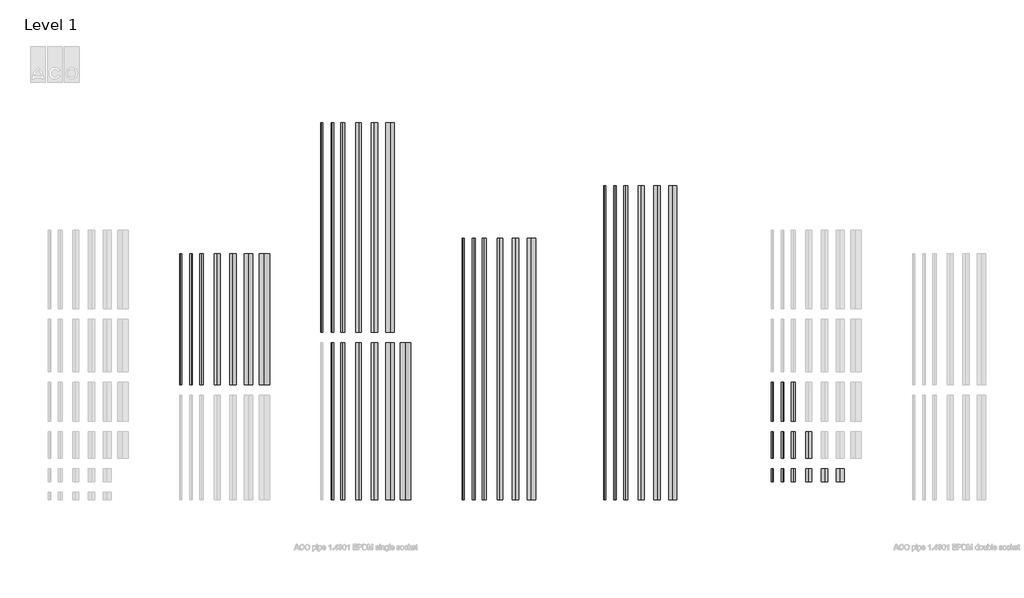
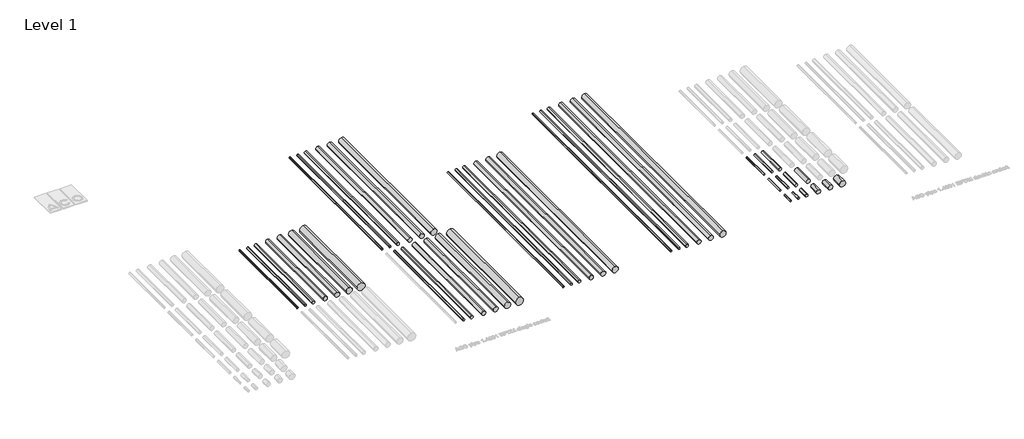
# One storey, part 7 of 13: 44 pipe segments.
"""IFC4 building model written with IfcOpenShell, lengths in millimetres."""

import ifcopenshell
import ifcopenshell.guid

model = None  # the IFC model being written
_history = None  # IfcOwnerHistory: only IFC2X3 demands one
_inside = {}  # id of a spatial element -> (the spatial element, [elements in it])
_under = {}  # id of a project, library or spatial element -> (it, [spatial elements below it])
_declared = {}  # id of a project -> (the project, [libraries it declares])
_typed = {}  # id of a type object -> (the type object, [elements of that type])
_made_of = {}  # id of a material, layer set ... -> (it, [elements and type objects made of it])


def new_model(schema):
    """Start an empty IFC model of exactly this schema.

    Asked for "IFC4X3", IfcOpenShell would pick the latest addendum, in which some entities
    have other attributes; the version numbers below select the first issue.
    IFC2X3 requires an IfcOwnerHistory on every rooted entity: one is made here for all.
    """
    global model, _history
    if schema == "IFC4X3":
        model = ifcopenshell.file(schema_version=(4, 3, 0, 0))
    else:
        model = ifcopenshell.file(schema=schema)
    _inside.clear()
    _under.clear()
    _declared.clear()
    _typed.clear()
    _made_of.clear()
    _history = None
    if model.schema == "IFC2X3":
        org = make("IfcOrganization", Name="unknown")
        user = make(
            "IfcPersonAndOrganization",
            ThePerson=make("IfcPerson", FamilyName="unknown"),
            TheOrganization=org,
        )
        app = make(
            "IfcApplication",
            ApplicationDeveloper=org,
            Version="unknown",
            ApplicationFullName="unknown",
            ApplicationIdentifier="unknown",
        )
        _history = make(
            "IfcOwnerHistory",
            OwningUser=user,
            OwningApplication=app,
            ChangeAction="ADDED",
            CreationDate=0,
        )
    return model


def make(cls, **values):
    """One entity of the class cls with the attributes given. An attribute that is None is left unset."""
    return model.create_entity(
        cls, **{name: value for name, value in values.items() if value is not None}
    )


def rooted(cls, **values):
    """An entity with a GlobalId (a new one), such as an element, a storey or a relation."""
    return make(cls, GlobalId=ifcopenshell.guid.new(), OwnerHistory=_history, **values)


def si_unit(unit_type, name, prefix=None):
    """IfcSIUnit, for example si_unit("LENGTHUNIT", "METRE", prefix="MILLI")."""
    return make("IfcSIUnit", UnitType=unit_type, Prefix=prefix, Name=name)


def assignment(units):
    """IfcUnitAssignment: the units of a project."""
    return None if units is None else make("IfcUnitAssignment", Units=units)


def point(xyz):
    """IfcCartesianPoint."""
    return None if xyz is None else make("IfcCartesianPoint", Coordinates=xyz)


def direction(xyz):
    """IfcDirection."""
    return None if xyz is None else make("IfcDirection", DirectionRatios=xyz)


def frame(location, z_axis=None, x_axis=None):
    """IfcAxis2Placement3D, a coordinate frame: its origin and axes. An axis left out is left unset."""
    return make(
        "IfcAxis2Placement3D",
        Location=point(location),
        Axis=direction(z_axis),
        RefDirection=direction(x_axis),
    )


def frame_2d(location, x_axis=None):
    """IfcAxis2Placement2D, a coordinate frame in the plane: its origin and x axis."""
    return make(
        "IfcAxis2Placement2D", Location=point(location), RefDirection=direction(x_axis)
    )


def origin():
    """The frame at (0, 0, 0) with its axes left unset."""
    return frame((0.0, 0.0, 0.0))


def place(relative_to, where):
    """IfcLocalPlacement: puts the frame where relative to a parent placement (None: the world)."""
    return make(
        "IfcLocalPlacement", PlacementRelTo=relative_to, RelativePlacement=where
    )


def context(
    kind, dimensions, precision=None, world=None, true_north=None, identifier=None
):
    """IfcGeometricRepresentationContext, for example the 3D "Model" context."""
    return make(
        "IfcGeometricRepresentationContext",
        ContextIdentifier=identifier,
        ContextType=kind,
        CoordinateSpaceDimension=dimensions,
        Precision=precision,
        WorldCoordinateSystem=world,
        TrueNorth=true_north,
    )


def project(units=None, contexts=None):
    """IfcProject with its units and contexts."""
    return rooted(
        "IfcProject",
        Name="project",
        RepresentationContexts=contexts,
        UnitsInContext=assignment(units),
    )


def spatial(cls, under=None, at=None, **own):
    """A site, building, storey or space (cls), placed at a placement, below another one or the project."""
    s = rooted(cls, ObjectPlacement=at, **own)
    if under is not None:
        _under.setdefault(under.id(), (under, []))[1].append(s)
    return s


def circle_curve(where, radius):
    """IfcCircle in the frame where."""
    return make("IfcCircle", Position=where, Radius=radius)


def trimmed(basis, trim1, trim2, sense, master):
    """IfcTrimmedCurve: the piece of a basis curve between two trims."""
    return make(
        "IfcTrimmedCurve",
        BasisCurve=basis,
        Trim1=trim1,
        Trim2=trim2,
        SenseAgreement=sense,
        MasterRepresentation=master,
    )


def segment(curve, same_sense, transition):
    """IfcCompositeCurveSegment."""
    return make(
        "IfcCompositeCurveSegment",
        Transition=transition,
        SameSense=same_sense,
        ParentCurve=curve,
    )


def composite_curve(segments, self_intersect=None):
    """IfcCompositeCurve: segments joined end to end."""
    return make("IfcCompositeCurve", Segments=segments, SelfIntersect=self_intersect)


def outline(outer, holes=None, kind="AREA"):
    """IfcArbitraryClosedProfileDef: a profile drawn as a closed curve; with holes, ...WithVoids."""
    if holes is None:
        return make("IfcArbitraryClosedProfileDef", ProfileType=kind, OuterCurve=outer)
    return make(
        "IfcArbitraryProfileDefWithVoids",
        ProfileType=kind,
        OuterCurve=outer,
        InnerCurves=holes,
    )


def extrude(swept, where, along, depth):
    """IfcExtrudedAreaSolid: the profile swept, set in the frame where, extruded along a direction by depth."""
    return make(
        "IfcExtrudedAreaSolid",
        SweptArea=swept,
        Position=where,
        ExtrudedDirection=direction(along),
        Depth=depth,
    )


def shape(context_of_items, identifier, shape_type, items):
    """IfcShapeRepresentation: the items that make up one representation, for example the "Body"."""
    return make(
        "IfcShapeRepresentation",
        ContextOfItems=context_of_items,
        RepresentationIdentifier=identifier,
        RepresentationType=shape_type,
        Items=items,
    )


def made_of(thing, what):
    """Note that an element or type object is made of a material, layer set ...; save() writes the relation."""
    if what is not None:
        _made_of.setdefault(what.id(), (what, []))[1].append(thing)
    return thing


def element(
    cls,
    number,
    at=None,
    inside=None,
    cuts=None,
    type_object=None,
    material=None,
    context=None,
    identifier="Body",
    shape_type=None,
    held_by="IfcProductDefinitionShape",
    body=None,
    shapes=None,
    **own,
):
    """One element of the class cls, such as IfcWall. Its Tag is "e" and its number.

    at: its placement. inside: the storey or other place that contains it. cuts: it is an
    opening in that element (IfcRelVoidsElement). A single representation is given by context,
    identifier, shape_type and body (its items); several are given by shapes. held_by: the class
    of the entity that holds the representations. save() writes the other relations.
    """
    e = rooted(cls, Tag="e%d" % number, ObjectPlacement=at, **own)
    if body is not None:
        shapes = [shape(context, identifier, shape_type, body)]
    if shapes is not None:
        e.Representation = make(held_by, Representations=shapes)
    if inside is not None:
        _inside.setdefault(inside.id(), (inside, []))[1].append(e)
    if cuts is not None:
        rooted(
            "IfcRelVoidsElement", RelatingBuildingElement=cuts, RelatedOpeningElement=e
        )
    if type_object is not None:
        _typed.setdefault(type_object.id(), (type_object, []))[1].append(e)
    return made_of(e, material)


def aggregate(whole, parts):
    """IfcRelAggregates: a whole, such as a stair, and the parts it consists of."""
    return rooted("IfcRelAggregates", RelatingObject=whole, RelatedObjects=parts)


def save(model, path):
    """Write the relations noted so far, then the file.

    IfcRelAggregates (storeys below a building ...), IfcRelContainedInSpatialStructure (elements
    in a storey), IfcRelDefinesByType, IfcRelAssociatesMaterial and IfcRelDeclares: one each for
    every whole, place, type object, material and project.
    """
    for whole, parts in _under.values():
        aggregate(whole, parts)
    for where, things in _inside.values():
        rooted(
            "IfcRelContainedInSpatialStructure",
            RelatedElements=things,
            RelatingStructure=where,
        )
    for kind, things in _typed.values():
        rooted("IfcRelDefinesByType", RelatedObjects=things, RelatingType=kind)
    for what, things in _made_of.values():
        rooted("IfcRelAssociatesMaterial", RelatedObjects=things, RelatingMaterial=what)
    for by, libraries in _declared.values():
        rooted("IfcRelDeclares", RelatingContext=by, RelatedDefinitions=libraries)
    model.write(path)


model = new_model("IFC4")

# Units and contexts
model_context = context("Model", 3, world=origin())
ifc_project = project(units=[si_unit("LENGTHUNIT", "METRE", prefix="MILLI")], contexts=[model_context])

# Site, building, storey
site = spatial("IfcSite", under=ifc_project)
building = spatial("IfcBuilding", under=site)
storey = spatial("IfcBuildingStorey", under=building, Name="Level 1", Elevation=0.0)

# Pipe segments
placement = place(None, origin())
element("IfcPipeSegment", 1, ObjectType="ACO pipe 1.4301 OD (complex)", at=placement, inside=storey, context=model_context, shape_type="SweptSolid", body=[
    extrude(outline(composite_curve([segment(trimmed(circle_curve(frame_2d((0.0, 1021.7461061)), 20.0), [point((0.0, 1041.7461061))], [point((20.0, 1021.7461061))], False, "CARTESIAN"), True, "CONTINUOUS"), segment(trimmed(circle_curve(frame_2d((0.0, 1021.7461061)), 20.0), [point((20.0, 1021.7461061))], [point((0.0, 1001.7461061))], False, "CARTESIAN"), True, "CONTINUOUS"), segment(trimmed(circle_curve(frame_2d((0.0, 1021.7461061)), 20.0), [point((0.0, 1001.7461061))], [point((-20.0, 1021.7461061))], False, "CARTESIAN"), True, "CONTINUOUS"), segment(trimmed(circle_curve(frame_2d((0.0, 1021.7461061)), 20.0), [point((-20.0, 1021.7461061))], [point((0.0, 1041.7461061))], False, "CARTESIAN"), True, "CONTINUOUS")], self_intersect=False)), frame((0.0, 2180.7885647, 0.0), z_axis=(0.0, 1.0, 0.0), x_axis=(0.0, 0.0, 1.0)), (0.0, 0.0, 1.0), 2500.0),
])
element("IfcPipeSegment", 2, ObjectType="ACO pipe 1.4301 OD (complex)", at=placement, inside=storey, context=model_context, shape_type="SweptSolid", body=[
    extrude(outline(composite_curve([segment(trimmed(circle_curve(frame_2d((0.0, 1221.7461061)), 25.0), [point((0.0, 1246.7461061))], [point((25.0, 1221.7461061))], False, "CARTESIAN"), True, "CONTINUOUS"), segment(trimmed(circle_curve(frame_2d((0.0, 1221.7461061)), 25.0), [point((25.0, 1221.7461061))], [point((0.0, 1196.7461061))], False, "CARTESIAN"), True, "CONTINUOUS"), segment(trimmed(circle_curve(frame_2d((0.0, 1221.7461061)), 25.0), [point((0.0, 1196.7461061))], [point((-25.0, 1221.7461061))], False, "CARTESIAN"), True, "CONTINUOUS"), segment(trimmed(circle_curve(frame_2d((0.0, 1221.7461061)), 25.0), [point((-25.0, 1221.7461061))], [point((0.0, 1246.7461061))], False, "CARTESIAN"), True, "CONTINUOUS")], self_intersect=False)), frame((0.0, 2180.7885647, 0.0), z_axis=(0.0, 1.0, 0.0), x_axis=(0.0, 0.0, 1.0)), (0.0, 0.0, 1.0), 2500.0),
])
element("IfcPipeSegment", 3, ObjectType="ACO pipe 1.4301 OD (complex)", at=placement, inside=storey, context=model_context, shape_type="SweptSolid", body=[
    extrude(outline(composite_curve([segment(trimmed(circle_curve(frame_2d((0.0, 1421.7461061)), 37.5), [point((0.0, 1459.2461061))], [point((37.5, 1421.7461061))], False, "CARTESIAN"), True, "CONTINUOUS"), segment(trimmed(circle_curve(frame_2d((0.0, 1421.7461061)), 37.5), [point((37.5, 1421.7461061))], [point((0.0, 1384.2461061))], False, "CARTESIAN"), True, "CONTINUOUS"), segment(trimmed(circle_curve(frame_2d((0.0, 1421.7461061)), 37.5), [point((0.0, 1384.2461061))], [point((-37.5, 1421.7461061))], False, "CARTESIAN"), True, "CONTINUOUS"), segment(trimmed(circle_curve(frame_2d((0.0, 1421.7461061)), 37.5), [point((-37.5, 1421.7461061))], [point((0.0, 1459.2461061))], False, "CARTESIAN"), True, "CONTINUOUS")], self_intersect=False)), frame((0.0, 2180.7885647, 0.0), z_axis=(0.0, 1.0, 0.0), x_axis=(0.0, 0.0, 1.0)), (0.0, 0.0, 1.0), 2500.0),
])
element("IfcPipeSegment", 4, ObjectType="ACO pipe 1.4301 OD (complex)", at=placement, inside=storey, context=model_context, shape_type="SweptSolid", body=[
    extrude(outline(composite_curve([segment(trimmed(circle_curve(frame_2d((0.0, 1721.7461061)), 55.0), [point((0.0, 1776.7461061))], [point((55.0, 1721.7461061))], False, "CARTESIAN"), True, "CONTINUOUS"), segment(trimmed(circle_curve(frame_2d((0.0, 1721.7461061)), 55.0), [point((55.0, 1721.7461061))], [point((0.0, 1666.7461061))], False, "CARTESIAN"), True, "CONTINUOUS"), segment(trimmed(circle_curve(frame_2d((0.0, 1721.7461061)), 55.0), [point((0.0, 1666.7461061))], [point((-55.0, 1721.7461061))], False, "CARTESIAN"), True, "CONTINUOUS"), segment(trimmed(circle_curve(frame_2d((0.0, 1721.7461061)), 55.0), [point((-55.0, 1721.7461061))], [point((0.0, 1776.7461061))], False, "CARTESIAN"), True, "CONTINUOUS")], self_intersect=False)), frame((0.0, 2180.7885647, 0.0), z_axis=(0.0, 1.0, 0.0), x_axis=(0.0, 0.0, 1.0)), (0.0, 0.0, 1.0), 2500.0),
])
element("IfcPipeSegment", 5, ObjectType="ACO pipe 1.4301 OD (complex)", at=placement, inside=storey, context=model_context, shape_type="SweptSolid", body=[
    extrude(outline(composite_curve([segment(trimmed(circle_curve(frame_2d((0.0, 2021.7461061)), 62.5), [point((0.0, 2084.2461061))], [point((62.5, 2021.7461061))], False, "CARTESIAN"), True, "CONTINUOUS"), segment(trimmed(circle_curve(frame_2d((0.0, 2021.7461061)), 62.5), [point((62.5, 2021.7461061))], [point((0.0, 1959.2461061))], False, "CARTESIAN"), True, "CONTINUOUS"), segment(trimmed(circle_curve(frame_2d((0.0, 2021.7461061)), 62.5), [point((0.0, 1959.2461061))], [point((-62.5, 2021.7461061))], False, "CARTESIAN"), True, "CONTINUOUS"), segment(trimmed(circle_curve(frame_2d((0.0, 2021.7461061)), 62.5), [point((-62.5, 2021.7461061))], [point((0.0, 2084.2461061))], False, "CARTESIAN"), True, "CONTINUOUS")], self_intersect=False)), frame((0.0, 2180.7885647, 0.0), z_axis=(0.0, 1.0, 0.0), x_axis=(0.0, 0.0, 1.0)), (0.0, 0.0, 1.0), 2500.0),
])
element("IfcPipeSegment", 6, ObjectType="ACO pipe 1.4301 OD (complex)", at=placement, inside=storey, context=model_context, shape_type="SweptSolid", body=[
    extrude(outline(composite_curve([segment(trimmed(circle_curve(frame_2d((0.0, 2321.7461061)), 80.0), [point((0.0, 2401.7461061))], [point((80.0, 2321.7461061))], False, "CARTESIAN"), True, "CONTINUOUS"), segment(trimmed(circle_curve(frame_2d((0.0, 2321.7461061)), 80.0), [point((80.0, 2321.7461061))], [point((0.0, 2241.7461061))], False, "CARTESIAN"), True, "CONTINUOUS"), segment(trimmed(circle_curve(frame_2d((0.0, 2321.7461061)), 80.0), [point((0.0, 2241.7461061))], [point((-80.0, 2321.7461061))], False, "CARTESIAN"), True, "CONTINUOUS"), segment(trimmed(circle_curve(frame_2d((0.0, 2321.7461061)), 80.0), [point((-80.0, 2321.7461061))], [point((0.0, 2401.7461061))], False, "CARTESIAN"), True, "CONTINUOUS")], self_intersect=False)), frame((0.0, 2180.7885647, 0.0), z_axis=(0.0, 1.0, 0.0), x_axis=(0.0, 0.0, 1.0)), (0.0, 0.0, 1.0), 2500.0),
])
element("IfcPipeSegment", 7, ObjectType="ACO pipe 1.4301 OD (complex)", at=placement, inside=storey, context=model_context, shape_type="SweptSolid", body=[
    extrude(outline(composite_curve([segment(trimmed(circle_curve(frame_2d((0.0, 2621.7461061)), 100.0), [point((0.0, 2721.7461061))], [point((100.0, 2621.7461061))], False, "CARTESIAN"), True, "CONTINUOUS"), segment(trimmed(circle_curve(frame_2d((0.0, 2621.7461061)), 100.0), [point((100.0, 2621.7461061))], [point((0.0, 2521.7461061))], False, "CARTESIAN"), True, "CONTINUOUS"), segment(trimmed(circle_curve(frame_2d((0.0, 2621.7461061)), 100.0), [point((0.0, 2521.7461061))], [point((-100.0, 2621.7461061))], False, "CARTESIAN"), True, "CONTINUOUS"), segment(trimmed(circle_curve(frame_2d((0.0, 2621.7461061)), 100.0), [point((-100.0, 2621.7461061))], [point((0.0, 2721.7461061))], False, "CARTESIAN"), True, "CONTINUOUS")], self_intersect=False)), frame((0.0, 2180.7885647, 0.0), z_axis=(0.0, 1.0, 0.0), x_axis=(0.0, 0.0, 1.0)), (0.0, 0.0, 1.0), 2500.0),
])
element("IfcPipeSegment", 8, ObjectType="ACO pipe 1.4301 OD (complex)", at=placement, inside=storey, context=model_context, shape_type="SweptSolid", body=[
    extrude(outline(composite_curve([segment(trimmed(circle_curve(frame_2d((0.0, 3921.7461061)), 25.0), [point((0.0, 3946.7461061))], [point((25.0, 3921.7461061))], False, "CARTESIAN"), True, "CONTINUOUS"), segment(trimmed(circle_curve(frame_2d((0.0, 3921.7461061)), 25.0), [point((25.0, 3921.7461061))], [point((0.0, 3896.7461061))], False, "CARTESIAN"), True, "CONTINUOUS"), segment(trimmed(circle_curve(frame_2d((0.0, 3921.7461061)), 25.0), [point((0.0, 3896.7461061))], [point((-25.0, 3921.7461061))], False, "CARTESIAN"), True, "CONTINUOUS"), segment(trimmed(circle_curve(frame_2d((0.0, 3921.7461061)), 25.0), [point((-25.0, 3921.7461061))], [point((0.0, 3946.7461061))], False, "CARTESIAN"), True, "CONTINUOUS")], self_intersect=False)), frame((0.0, -19.2114353, 0.0), z_axis=(0.0, 1.0, 0.0), x_axis=(0.0, 0.0, 1.0)), (0.0, 0.0, 1.0), 3000.0),
])
element("IfcPipeSegment", 9, ObjectType="ACO pipe 1.4301 OD (complex)", at=placement, inside=storey, context=model_context, shape_type="SweptSolid", body=[
    extrude(outline(composite_curve([segment(trimmed(circle_curve(frame_2d((0.0, 4121.7461061)), 37.5), [point((0.0, 4159.2461061))], [point((37.5, 4121.7461061))], False, "CARTESIAN"), True, "CONTINUOUS"), segment(trimmed(circle_curve(frame_2d((0.0, 4121.7461061)), 37.5), [point((37.5, 4121.7461061))], [point((0.0, 4084.2461061))], False, "CARTESIAN"), True, "CONTINUOUS"), segment(trimmed(circle_curve(frame_2d((0.0, 4121.7461061)), 37.5), [point((0.0, 4084.2461061))], [point((-37.5, 4121.7461061))], False, "CARTESIAN"), True, "CONTINUOUS"), segment(trimmed(circle_curve(frame_2d((0.0, 4121.7461061)), 37.5), [point((-37.5, 4121.7461061))], [point((0.0, 4159.2461061))], False, "CARTESIAN"), True, "CONTINUOUS")], self_intersect=False)), frame((0.0, -19.2114353, 0.0), z_axis=(0.0, 1.0, 0.0), x_axis=(0.0, 0.0, 1.0)), (0.0, 0.0, 1.0), 3000.0),
])
element("IfcPipeSegment", 10, ObjectType="ACO pipe 1.4301 OD (complex)", at=placement, inside=storey, context=model_context, shape_type="SweptSolid", body=[
    extrude(outline(composite_curve([segment(trimmed(circle_curve(frame_2d((0.0, 4421.7461061)), 55.0), [point((0.0, 4476.7461061))], [point((55.0, 4421.7461061))], False, "CARTESIAN"), True, "CONTINUOUS"), segment(trimmed(circle_curve(frame_2d((0.0, 4421.7461061)), 55.0), [point((55.0, 4421.7461061))], [point((0.0, 4366.7461061))], False, "CARTESIAN"), True, "CONTINUOUS"), segment(trimmed(circle_curve(frame_2d((0.0, 4421.7461061)), 55.0), [point((0.0, 4366.7461061))], [point((-55.0, 4421.7461061))], False, "CARTESIAN"), True, "CONTINUOUS"), segment(trimmed(circle_curve(frame_2d((0.0, 4421.7461061)), 55.0), [point((-55.0, 4421.7461061))], [point((0.0, 4476.7461061))], False, "CARTESIAN"), True, "CONTINUOUS")], self_intersect=False)), frame((0.0, -19.2114353, 0.0), z_axis=(0.0, 1.0, 0.0), x_axis=(0.0, 0.0, 1.0)), (0.0, 0.0, 1.0), 3000.0),
])
element("IfcPipeSegment", 11, ObjectType="ACO pipe 1.4301 OD (complex)", at=placement, inside=storey, context=model_context, shape_type="SweptSolid", body=[
    extrude(outline(composite_curve([segment(trimmed(circle_curve(frame_2d((0.0, 4721.7461061)), 62.5), [point((0.0, 4784.2461061))], [point((62.5, 4721.7461061))], False, "CARTESIAN"), True, "CONTINUOUS"), segment(trimmed(circle_curve(frame_2d((0.0, 4721.7461061)), 62.5), [point((62.5, 4721.7461061))], [point((0.0, 4659.2461061))], False, "CARTESIAN"), True, "CONTINUOUS"), segment(trimmed(circle_curve(frame_2d((0.0, 4721.7461061)), 62.5), [point((0.0, 4659.2461061))], [point((-62.5, 4721.7461061))], False, "CARTESIAN"), True, "CONTINUOUS"), segment(trimmed(circle_curve(frame_2d((0.0, 4721.7461061)), 62.5), [point((-62.5, 4721.7461061))], [point((0.0, 4784.2461061))], False, "CARTESIAN"), True, "CONTINUOUS")], self_intersect=False)), frame((0.0, -19.2114353, 0.0), z_axis=(0.0, 1.0, 0.0), x_axis=(0.0, 0.0, 1.0)), (0.0, 0.0, 1.0), 3000.0),
])
element("IfcPipeSegment", 12, ObjectType="ACO pipe 1.4301 OD (complex)", at=placement, inside=storey, context=model_context, shape_type="SweptSolid", body=[
    extrude(outline(composite_curve([segment(trimmed(circle_curve(frame_2d((0.0, 5021.7461061)), 80.0), [point((0.0, 5101.7461061))], [point((80.0, 5021.7461061))], False, "CARTESIAN"), True, "CONTINUOUS"), segment(trimmed(circle_curve(frame_2d((0.0, 5021.7461061)), 80.0), [point((80.0, 5021.7461061))], [point((0.0, 4941.7461061))], False, "CARTESIAN"), True, "CONTINUOUS"), segment(trimmed(circle_curve(frame_2d((0.0, 5021.7461061)), 80.0), [point((0.0, 4941.7461061))], [point((-80.0, 5021.7461061))], False, "CARTESIAN"), True, "CONTINUOUS"), segment(trimmed(circle_curve(frame_2d((0.0, 5021.7461061)), 80.0), [point((-80.0, 5021.7461061))], [point((0.0, 5101.7461061))], False, "CARTESIAN"), True, "CONTINUOUS")], self_intersect=False)), frame((0.0, -19.2114353, 0.0), z_axis=(0.0, 1.0, 0.0), x_axis=(0.0, 0.0, 1.0)), (0.0, 0.0, 1.0), 3000.0),
])
element("IfcPipeSegment", 13, ObjectType="ACO pipe 1.4301 OD (complex)", at=placement, inside=storey, context=model_context, shape_type="SweptSolid", body=[
    extrude(outline(composite_curve([segment(trimmed(circle_curve(frame_2d((0.0, 5321.7461061)), 100.0), [point((0.0, 5421.7461061))], [point((100.0, 5321.7461061))], False, "CARTESIAN"), True, "CONTINUOUS"), segment(trimmed(circle_curve(frame_2d((0.0, 5321.7461061)), 100.0), [point((100.0, 5321.7461061))], [point((0.0, 5221.7461061))], False, "CARTESIAN"), True, "CONTINUOUS"), segment(trimmed(circle_curve(frame_2d((0.0, 5321.7461061)), 100.0), [point((0.0, 5221.7461061))], [point((-100.0, 5321.7461061))], False, "CARTESIAN"), True, "CONTINUOUS"), segment(trimmed(circle_curve(frame_2d((0.0, 5321.7461061)), 100.0), [point((-100.0, 5321.7461061))], [point((0.0, 5421.7461061))], False, "CARTESIAN"), True, "CONTINUOUS")], self_intersect=False)), frame((0.0, -19.2114353, 0.0), z_axis=(0.0, 1.0, 0.0), x_axis=(0.0, 0.0, 1.0)), (0.0, 0.0, 1.0), 3000.0),
])
element("IfcPipeSegment", 14, ObjectType="ACO pipe 1.4301 OD (complex)", at=placement, inside=storey, context=model_context, shape_type="SweptSolid", body=[
    extrude(outline(composite_curve([segment(trimmed(circle_curve(frame_2d((0.0, 3721.7461061)), 20.0), [point((0.0, 3741.7461061))], [point((20.0, 3721.7461061))], False, "CARTESIAN"), True, "CONTINUOUS"), segment(trimmed(circle_curve(frame_2d((0.0, 3721.7461061)), 20.0), [point((20.0, 3721.7461061))], [point((0.0, 3701.7461061))], False, "CARTESIAN"), True, "CONTINUOUS"), segment(trimmed(circle_curve(frame_2d((0.0, 3721.7461061)), 20.0), [point((0.0, 3701.7461061))], [point((-20.0, 3721.7461061))], False, "CARTESIAN"), True, "CONTINUOUS"), segment(trimmed(circle_curve(frame_2d((0.0, 3721.7461061)), 20.0), [point((-20.0, 3721.7461061))], [point((0.0, 3741.7461061))], False, "CARTESIAN"), True, "CONTINUOUS")], self_intersect=False)), frame((0.0, 3180.7885647, 0.0), z_axis=(0.0, 1.0, 0.0), x_axis=(0.0, 0.0, 1.0)), (0.0, 0.0, 1.0), 4000.0),
])
element("IfcPipeSegment", 15, ObjectType="ACO pipe 1.4301 OD (complex)", at=placement, inside=storey, context=model_context, shape_type="SweptSolid", body=[
    extrude(outline(composite_curve([segment(trimmed(circle_curve(frame_2d((0.0, 3921.7461061)), 25.0), [point((0.0, 3946.7461061))], [point((25.0, 3921.7461061))], False, "CARTESIAN"), True, "CONTINUOUS"), segment(trimmed(circle_curve(frame_2d((0.0, 3921.7461061)), 25.0), [point((25.0, 3921.7461061))], [point((0.0, 3896.7461061))], False, "CARTESIAN"), True, "CONTINUOUS"), segment(trimmed(circle_curve(frame_2d((0.0, 3921.7461061)), 25.0), [point((0.0, 3896.7461061))], [point((-25.0, 3921.7461061))], False, "CARTESIAN"), True, "CONTINUOUS"), segment(trimmed(circle_curve(frame_2d((0.0, 3921.7461061)), 25.0), [point((-25.0, 3921.7461061))], [point((0.0, 3946.7461061))], False, "CARTESIAN"), True, "CONTINUOUS")], self_intersect=False)), frame((0.0, 3180.7885647, 0.0), z_axis=(0.0, 1.0, 0.0), x_axis=(0.0, 0.0, 1.0)), (0.0, 0.0, 1.0), 4000.0),
])
element("IfcPipeSegment", 16, ObjectType="ACO pipe 1.4301 OD (complex)", at=placement, inside=storey, context=model_context, shape_type="SweptSolid", body=[
    extrude(outline(composite_curve([segment(trimmed(circle_curve(frame_2d((0.0, 4121.7461061)), 37.5), [point((0.0, 4159.2461061))], [point((37.5, 4121.7461061))], False, "CARTESIAN"), True, "CONTINUOUS"), segment(trimmed(circle_curve(frame_2d((0.0, 4121.7461061)), 37.5), [point((37.5, 4121.7461061))], [point((0.0, 4084.2461061))], False, "CARTESIAN"), True, "CONTINUOUS"), segment(trimmed(circle_curve(frame_2d((0.0, 4121.7461061)), 37.5), [point((0.0, 4084.2461061))], [point((-37.5, 4121.7461061))], False, "CARTESIAN"), True, "CONTINUOUS"), segment(trimmed(circle_curve(frame_2d((0.0, 4121.7461061)), 37.5), [point((-37.5, 4121.7461061))], [point((0.0, 4159.2461061))], False, "CARTESIAN"), True, "CONTINUOUS")], self_intersect=False)), frame((0.0, 3180.7885647, 0.0), z_axis=(0.0, 1.0, 0.0), x_axis=(0.0, 0.0, 1.0)), (0.0, 0.0, 1.0), 4000.0),
])
element("IfcPipeSegment", 17, ObjectType="ACO pipe 1.4301 OD (complex)", at=placement, inside=storey, context=model_context, shape_type="SweptSolid", body=[
    extrude(outline(composite_curve([segment(trimmed(circle_curve(frame_2d((0.0, 4421.7461061)), 55.0), [point((0.0, 4476.7461061))], [point((55.0, 4421.7461061))], False, "CARTESIAN"), True, "CONTINUOUS"), segment(trimmed(circle_curve(frame_2d((0.0, 4421.7461061)), 55.0), [point((55.0, 4421.7461061))], [point((0.0, 4366.7461061))], False, "CARTESIAN"), True, "CONTINUOUS"), segment(trimmed(circle_curve(frame_2d((0.0, 4421.7461061)), 55.0), [point((0.0, 4366.7461061))], [point((-55.0, 4421.7461061))], False, "CARTESIAN"), True, "CONTINUOUS"), segment(trimmed(circle_curve(frame_2d((0.0, 4421.7461061)), 55.0), [point((-55.0, 4421.7461061))], [point((0.0, 4476.7461061))], False, "CARTESIAN"), True, "CONTINUOUS")], self_intersect=False)), frame((0.0, 3180.7885647, 0.0), z_axis=(0.0, 1.0, 0.0), x_axis=(0.0, 0.0, 1.0)), (0.0, 0.0, 1.0), 4000.0),
])
element("IfcPipeSegment", 18, ObjectType="ACO pipe 1.4301 OD (complex)", at=placement, inside=storey, context=model_context, shape_type="SweptSolid", body=[
    extrude(outline(composite_curve([segment(trimmed(circle_curve(frame_2d((0.0, 4721.7461061)), 62.5), [point((0.0, 4784.2461061))], [point((62.5, 4721.7461061))], False, "CARTESIAN"), True, "CONTINUOUS"), segment(trimmed(circle_curve(frame_2d((0.0, 4721.7461061)), 62.5), [point((62.5, 4721.7461061))], [point((0.0, 4659.2461061))], False, "CARTESIAN"), True, "CONTINUOUS"), segment(trimmed(circle_curve(frame_2d((0.0, 4721.7461061)), 62.5), [point((0.0, 4659.2461061))], [point((-62.5, 4721.7461061))], False, "CARTESIAN"), True, "CONTINUOUS"), segment(trimmed(circle_curve(frame_2d((0.0, 4721.7461061)), 62.5), [point((-62.5, 4721.7461061))], [point((0.0, 4784.2461061))], False, "CARTESIAN"), True, "CONTINUOUS")], self_intersect=False)), frame((0.0, 3180.7885647, 0.0), z_axis=(0.0, 1.0, 0.0), x_axis=(0.0, 0.0, 1.0)), (0.0, 0.0, 1.0), 4000.0),
])
element("IfcPipeSegment", 19, ObjectType="ACO pipe 1.4301 OD (complex)", at=placement, inside=storey, context=model_context, shape_type="SweptSolid", body=[
    extrude(outline(composite_curve([segment(trimmed(circle_curve(frame_2d((0.0, 5021.7461061)), 80.0), [point((0.0, 5101.7461061))], [point((80.0, 5021.7461061))], False, "CARTESIAN"), True, "CONTINUOUS"), segment(trimmed(circle_curve(frame_2d((0.0, 5021.7461061)), 80.0), [point((80.0, 5021.7461061))], [point((0.0, 4941.7461061))], False, "CARTESIAN"), True, "CONTINUOUS"), segment(trimmed(circle_curve(frame_2d((0.0, 5021.7461061)), 80.0), [point((0.0, 4941.7461061))], [point((-80.0, 5021.7461061))], False, "CARTESIAN"), True, "CONTINUOUS"), segment(trimmed(circle_curve(frame_2d((0.0, 5021.7461061)), 80.0), [point((-80.0, 5021.7461061))], [point((0.0, 5101.7461061))], False, "CARTESIAN"), True, "CONTINUOUS")], self_intersect=False)), frame((0.0, 3180.7885647, 0.0), z_axis=(0.0, 1.0, 0.0), x_axis=(0.0, 0.0, 1.0)), (0.0, 0.0, 1.0), 4000.0),
])
element("IfcPipeSegment", 20, ObjectType="ACO pipe 1.4301 OD (complex)", at=placement, inside=storey, context=model_context, shape_type="SweptSolid", body=[
    extrude(outline(composite_curve([segment(trimmed(circle_curve(frame_2d((0.0, 6421.7461061)), 20.0), [point((0.0, 6441.7461061))], [point((20.0, 6421.7461061))], False, "CARTESIAN"), True, "CONTINUOUS"), segment(trimmed(circle_curve(frame_2d((0.0, 6421.7461061)), 20.0), [point((20.0, 6421.7461061))], [point((0.0, 6401.7461061))], False, "CARTESIAN"), True, "CONTINUOUS"), segment(trimmed(circle_curve(frame_2d((0.0, 6421.7461061)), 20.0), [point((0.0, 6401.7461061))], [point((-20.0, 6421.7461061))], False, "CARTESIAN"), True, "CONTINUOUS"), segment(trimmed(circle_curve(frame_2d((0.0, 6421.7461061)), 20.0), [point((-20.0, 6421.7461061))], [point((0.0, 6441.7461061))], False, "CARTESIAN"), True, "CONTINUOUS")], self_intersect=False)), frame((0.0, -19.2114353, 0.0), z_axis=(0.0, 1.0, 0.0), x_axis=(0.0, 0.0, 1.0)), (0.0, 0.0, 1.0), 5000.0),
])
element("IfcPipeSegment", 21, ObjectType="ACO pipe 1.4301 OD (complex)", at=placement, inside=storey, context=model_context, shape_type="SweptSolid", body=[
    extrude(outline(composite_curve([segment(trimmed(circle_curve(frame_2d((0.0, 6621.7461061)), 25.0), [point((0.0, 6646.7461061))], [point((25.0, 6621.7461061))], False, "CARTESIAN"), True, "CONTINUOUS"), segment(trimmed(circle_curve(frame_2d((0.0, 6621.7461061)), 25.0), [point((25.0, 6621.7461061))], [point((0.0, 6596.7461061))], False, "CARTESIAN"), True, "CONTINUOUS"), segment(trimmed(circle_curve(frame_2d((0.0, 6621.7461061)), 25.0), [point((0.0, 6596.7461061))], [point((-25.0, 6621.7461061))], False, "CARTESIAN"), True, "CONTINUOUS"), segment(trimmed(circle_curve(frame_2d((0.0, 6621.7461061)), 25.0), [point((-25.0, 6621.7461061))], [point((0.0, 6646.7461061))], False, "CARTESIAN"), True, "CONTINUOUS")], self_intersect=False)), frame((0.0, -19.2114353, 0.0), z_axis=(0.0, 1.0, 0.0), x_axis=(0.0, 0.0, 1.0)), (0.0, 0.0, 1.0), 5000.0),
])
element("IfcPipeSegment", 22, ObjectType="ACO pipe 1.4301 OD (complex)", at=placement, inside=storey, context=model_context, shape_type="SweptSolid", body=[
    extrude(outline(composite_curve([segment(trimmed(circle_curve(frame_2d((0.0, 6821.7461061)), 37.5), [point((0.0, 6859.2461061))], [point((37.5, 6821.7461061))], False, "CARTESIAN"), True, "CONTINUOUS"), segment(trimmed(circle_curve(frame_2d((0.0, 6821.7461061)), 37.5), [point((37.5, 6821.7461061))], [point((0.0, 6784.2461061))], False, "CARTESIAN"), True, "CONTINUOUS"), segment(trimmed(circle_curve(frame_2d((0.0, 6821.7461061)), 37.5), [point((0.0, 6784.2461061))], [point((-37.5, 6821.7461061))], False, "CARTESIAN"), True, "CONTINUOUS"), segment(trimmed(circle_curve(frame_2d((0.0, 6821.7461061)), 37.5), [point((-37.5, 6821.7461061))], [point((0.0, 6859.2461061))], False, "CARTESIAN"), True, "CONTINUOUS")], self_intersect=False)), frame((0.0, -19.2114353, 0.0), z_axis=(0.0, 1.0, 0.0), x_axis=(0.0, 0.0, 1.0)), (0.0, 0.0, 1.0), 5000.0),
])
element("IfcPipeSegment", 23, ObjectType="ACO pipe 1.4301 OD (complex)", at=placement, inside=storey, context=model_context, shape_type="SweptSolid", body=[
    extrude(outline(composite_curve([segment(trimmed(circle_curve(frame_2d((0.0, 7121.7461061)), 55.0), [point((0.0, 7176.7461061))], [point((55.0, 7121.7461061))], False, "CARTESIAN"), True, "CONTINUOUS"), segment(trimmed(circle_curve(frame_2d((0.0, 7121.7461061)), 55.0), [point((55.0, 7121.7461061))], [point((0.0, 7066.7461061))], False, "CARTESIAN"), True, "CONTINUOUS"), segment(trimmed(circle_curve(frame_2d((0.0, 7121.7461061)), 55.0), [point((0.0, 7066.7461061))], [point((-55.0, 7121.7461061))], False, "CARTESIAN"), True, "CONTINUOUS"), segment(trimmed(circle_curve(frame_2d((0.0, 7121.7461061)), 55.0), [point((-55.0, 7121.7461061))], [point((0.0, 7176.7461061))], False, "CARTESIAN"), True, "CONTINUOUS")], self_intersect=False)), frame((0.0, -19.2114353, 0.0), z_axis=(0.0, 1.0, 0.0), x_axis=(0.0, 0.0, 1.0)), (0.0, 0.0, 1.0), 5000.0),
])
element("IfcPipeSegment", 24, ObjectType="ACO pipe 1.4301 OD (complex)", at=placement, inside=storey, context=model_context, shape_type="SweptSolid", body=[
    extrude(outline(composite_curve([segment(trimmed(circle_curve(frame_2d((0.0, 7421.7461061)), 62.5), [point((0.0, 7484.2461061))], [point((62.5, 7421.7461061))], False, "CARTESIAN"), True, "CONTINUOUS"), segment(trimmed(circle_curve(frame_2d((0.0, 7421.7461061)), 62.5), [point((62.5, 7421.7461061))], [point((0.0, 7359.2461061))], False, "CARTESIAN"), True, "CONTINUOUS"), segment(trimmed(circle_curve(frame_2d((0.0, 7421.7461061)), 62.5), [point((0.0, 7359.2461061))], [point((-62.5, 7421.7461061))], False, "CARTESIAN"), True, "CONTINUOUS"), segment(trimmed(circle_curve(frame_2d((0.0, 7421.7461061)), 62.5), [point((-62.5, 7421.7461061))], [point((0.0, 7484.2461061))], False, "CARTESIAN"), True, "CONTINUOUS")], self_intersect=False)), frame((0.0, -19.2114353, 0.0), z_axis=(0.0, 1.0, 0.0), x_axis=(0.0, 0.0, 1.0)), (0.0, 0.0, 1.0), 5000.0),
])
element("IfcPipeSegment", 25, ObjectType="ACO pipe 1.4301 OD (complex)", at=placement, inside=storey, context=model_context, shape_type="SweptSolid", body=[
    extrude(outline(composite_curve([segment(trimmed(circle_curve(frame_2d((0.0, 7721.7461061)), 80.0), [point((0.0, 7801.7461061))], [point((80.0, 7721.7461061))], False, "CARTESIAN"), True, "CONTINUOUS"), segment(trimmed(circle_curve(frame_2d((0.0, 7721.7461061)), 80.0), [point((80.0, 7721.7461061))], [point((0.0, 7641.7461061))], False, "CARTESIAN"), True, "CONTINUOUS"), segment(trimmed(circle_curve(frame_2d((0.0, 7721.7461061)), 80.0), [point((0.0, 7641.7461061))], [point((-80.0, 7721.7461061))], False, "CARTESIAN"), True, "CONTINUOUS"), segment(trimmed(circle_curve(frame_2d((0.0, 7721.7461061)), 80.0), [point((-80.0, 7721.7461061))], [point((0.0, 7801.7461061))], False, "CARTESIAN"), True, "CONTINUOUS")], self_intersect=False)), frame((0.0, -19.2114353, 0.0), z_axis=(0.0, 1.0, 0.0), x_axis=(0.0, 0.0, 1.0)), (0.0, 0.0, 1.0), 5000.0),
])
element("IfcPipeSegment", 26, ObjectType="ACO pipe 1.4301 OD (complex)", at=placement, inside=storey, context=model_context, shape_type="SweptSolid", body=[
    extrude(outline(composite_curve([segment(trimmed(circle_curve(frame_2d((0.0, 9121.7461061)), 20.0), [point((0.0, 9141.7461061))], [point((20.0, 9121.7461061))], False, "CARTESIAN"), True, "CONTINUOUS"), segment(trimmed(circle_curve(frame_2d((0.0, 9121.7461061)), 20.0), [point((20.0, 9121.7461061))], [point((0.0, 9101.7461061))], False, "CARTESIAN"), True, "CONTINUOUS"), segment(trimmed(circle_curve(frame_2d((0.0, 9121.7461061)), 20.0), [point((0.0, 9101.7461061))], [point((-20.0, 9121.7461061))], False, "CARTESIAN"), True, "CONTINUOUS"), segment(trimmed(circle_curve(frame_2d((0.0, 9121.7461061)), 20.0), [point((-20.0, 9121.7461061))], [point((0.0, 9141.7461061))], False, "CARTESIAN"), True, "CONTINUOUS")], self_intersect=False)), frame((0.0, -19.2114353, 0.0), z_axis=(0.0, 1.0, 0.0), x_axis=(0.0, 0.0, 1.0)), (0.0, 0.0, 1.0), 6000.0),
])
element("IfcPipeSegment", 27, ObjectType="ACO pipe 1.4301 OD (complex)", at=placement, inside=storey, context=model_context, shape_type="SweptSolid", body=[
    extrude(outline(composite_curve([segment(trimmed(circle_curve(frame_2d((0.0, 9321.7461061)), 25.0), [point((0.0, 9346.7461061))], [point((25.0, 9321.7461061))], False, "CARTESIAN"), True, "CONTINUOUS"), segment(trimmed(circle_curve(frame_2d((0.0, 9321.7461061)), 25.0), [point((25.0, 9321.7461061))], [point((0.0, 9296.7461061))], False, "CARTESIAN"), True, "CONTINUOUS"), segment(trimmed(circle_curve(frame_2d((0.0, 9321.7461061)), 25.0), [point((0.0, 9296.7461061))], [point((-25.0, 9321.7461061))], False, "CARTESIAN"), True, "CONTINUOUS"), segment(trimmed(circle_curve(frame_2d((0.0, 9321.7461061)), 25.0), [point((-25.0, 9321.7461061))], [point((0.0, 9346.7461061))], False, "CARTESIAN"), True, "CONTINUOUS")], self_intersect=False)), frame((0.0, -19.2114353, 0.0), z_axis=(0.0, 1.0, 0.0), x_axis=(0.0, 0.0, 1.0)), (0.0, 0.0, 1.0), 6000.0),
])
element("IfcPipeSegment", 28, ObjectType="ACO pipe 1.4301 OD (complex)", at=placement, inside=storey, context=model_context, shape_type="SweptSolid", body=[
    extrude(outline(composite_curve([segment(trimmed(circle_curve(frame_2d((0.0, 9521.7461061)), 37.5), [point((0.0, 9559.2461061))], [point((37.5, 9521.7461061))], False, "CARTESIAN"), True, "CONTINUOUS"), segment(trimmed(circle_curve(frame_2d((0.0, 9521.7461061)), 37.5), [point((37.5, 9521.7461061))], [point((0.0, 9484.2461061))], False, "CARTESIAN"), True, "CONTINUOUS"), segment(trimmed(circle_curve(frame_2d((0.0, 9521.7461061)), 37.5), [point((0.0, 9484.2461061))], [point((-37.5, 9521.7461061))], False, "CARTESIAN"), True, "CONTINUOUS"), segment(trimmed(circle_curve(frame_2d((0.0, 9521.7461061)), 37.5), [point((-37.5, 9521.7461061))], [point((0.0, 9559.2461061))], False, "CARTESIAN"), True, "CONTINUOUS")], self_intersect=False)), frame((0.0, -19.2114353, 0.0), z_axis=(0.0, 1.0, 0.0), x_axis=(0.0, 0.0, 1.0)), (0.0, 0.0, 1.0), 6000.0),
])
element("IfcPipeSegment", 29, ObjectType="ACO pipe 1.4301 OD (complex)", at=placement, inside=storey, context=model_context, shape_type="SweptSolid", body=[
    extrude(outline(composite_curve([segment(trimmed(circle_curve(frame_2d((0.0, 9821.7461061)), 55.0), [point((0.0, 9876.7461061))], [point((55.0, 9821.7461061))], False, "CARTESIAN"), True, "CONTINUOUS"), segment(trimmed(circle_curve(frame_2d((0.0, 9821.7461061)), 55.0), [point((55.0, 9821.7461061))], [point((0.0, 9766.7461061))], False, "CARTESIAN"), True, "CONTINUOUS"), segment(trimmed(circle_curve(frame_2d((0.0, 9821.7461061)), 55.0), [point((0.0, 9766.7461061))], [point((-55.0, 9821.7461061))], False, "CARTESIAN"), True, "CONTINUOUS"), segment(trimmed(circle_curve(frame_2d((0.0, 9821.7461061)), 55.0), [point((-55.0, 9821.7461061))], [point((0.0, 9876.7461061))], False, "CARTESIAN"), True, "CONTINUOUS")], self_intersect=False)), frame((0.0, -19.2114353, 0.0), z_axis=(0.0, 1.0, 0.0), x_axis=(0.0, 0.0, 1.0)), (0.0, 0.0, 1.0), 6000.0),
])
element("IfcPipeSegment", 30, ObjectType="ACO pipe 1.4301 OD (complex)", at=placement, inside=storey, context=model_context, shape_type="SweptSolid", body=[
    extrude(outline(composite_curve([segment(trimmed(circle_curve(frame_2d((0.0, 10121.7461061)), 62.5), [point((0.0, 10184.2461061))], [point((62.5, 10121.7461061))], False, "CARTESIAN"), True, "CONTINUOUS"), segment(trimmed(circle_curve(frame_2d((0.0, 10121.7461061)), 62.5), [point((62.5, 10121.7461061))], [point((0.0, 10059.2461061))], False, "CARTESIAN"), True, "CONTINUOUS"), segment(trimmed(circle_curve(frame_2d((0.0, 10121.7461061)), 62.5), [point((0.0, 10059.2461061))], [point((-62.5, 10121.7461061))], False, "CARTESIAN"), True, "CONTINUOUS"), segment(trimmed(circle_curve(frame_2d((0.0, 10121.7461061)), 62.5), [point((-62.5, 10121.7461061))], [point((0.0, 10184.2461061))], False, "CARTESIAN"), True, "CONTINUOUS")], self_intersect=False)), frame((0.0, -19.2114353, 0.0), z_axis=(0.0, 1.0, 0.0), x_axis=(0.0, 0.0, 1.0)), (0.0, 0.0, 1.0), 6000.0),
])
element("IfcPipeSegment", 31, ObjectType="ACO pipe 1.4301 OD (complex)", at=placement, inside=storey, context=model_context, shape_type="SweptSolid", body=[
    extrude(outline(composite_curve([segment(trimmed(circle_curve(frame_2d((0.0, 10421.7461061)), 80.0), [point((0.0, 10501.7461061))], [point((80.0, 10421.7461061))], False, "CARTESIAN"), True, "CONTINUOUS"), segment(trimmed(circle_curve(frame_2d((0.0, 10421.7461061)), 80.0), [point((80.0, 10421.7461061))], [point((0.0, 10341.7461061))], False, "CARTESIAN"), True, "CONTINUOUS"), segment(trimmed(circle_curve(frame_2d((0.0, 10421.7461061)), 80.0), [point((0.0, 10341.7461061))], [point((-80.0, 10421.7461061))], False, "CARTESIAN"), True, "CONTINUOUS"), segment(trimmed(circle_curve(frame_2d((0.0, 10421.7461061)), 80.0), [point((-80.0, 10421.7461061))], [point((0.0, 10501.7461061))], False, "CARTESIAN"), True, "CONTINUOUS")], self_intersect=False)), frame((0.0, -19.2114353, 0.0), z_axis=(0.0, 1.0, 0.0), x_axis=(0.0, 0.0, 1.0)), (0.0, 0.0, 1.0), 6000.0),
])
element("IfcPipeSegment", 32, ObjectType="ACO pipe 1.4301 OD (complex)", at=placement, inside=storey, context=model_context, shape_type="SweptSolid", body=[
    extrude(outline(composite_curve([segment(trimmed(circle_curve(frame_2d((0.0, 12321.7461061)), 20.0), [point((0.0, 12341.7461061))], [point((20.0, 12321.7461061))], False, "CARTESIAN"), True, "CONTINUOUS"), segment(trimmed(circle_curve(frame_2d((0.0, 12321.7461061)), 20.0), [point((20.0, 12321.7461061))], [point((0.0, 12301.7461061))], False, "CARTESIAN"), True, "CONTINUOUS"), segment(trimmed(circle_curve(frame_2d((0.0, 12321.7461061)), 20.0), [point((0.0, 12301.7461061))], [point((-20.0, 12321.7461061))], False, "CARTESIAN"), True, "CONTINUOUS"), segment(trimmed(circle_curve(frame_2d((0.0, 12321.7461061)), 20.0), [point((-20.0, 12321.7461061))], [point((0.0, 12341.7461061))], False, "CARTESIAN"), True, "CONTINUOUS")], self_intersect=False)), frame((0.0, 330.7885647, 0.0), z_axis=(0.0, 1.0, 0.0), x_axis=(0.0, 0.0, 1.0)), (0.0, 0.0, 1.0), 250.0),
])
element("IfcPipeSegment", 33, ObjectType="ACO pipe 1.4301 OD (complex)", at=placement, inside=storey, context=model_context, shape_type="SweptSolid", body=[
    extrude(outline(composite_curve([segment(trimmed(circle_curve(frame_2d((0.0, 12521.7461061)), 25.0), [point((0.0, 12546.7461061))], [point((25.0, 12521.7461061))], False, "CARTESIAN"), True, "CONTINUOUS"), segment(trimmed(circle_curve(frame_2d((0.0, 12521.7461061)), 25.0), [point((25.0, 12521.7461061))], [point((0.0, 12496.7461061))], False, "CARTESIAN"), True, "CONTINUOUS"), segment(trimmed(circle_curve(frame_2d((0.0, 12521.7461061)), 25.0), [point((0.0, 12496.7461061))], [point((-25.0, 12521.7461061))], False, "CARTESIAN"), True, "CONTINUOUS"), segment(trimmed(circle_curve(frame_2d((0.0, 12521.7461061)), 25.0), [point((-25.0, 12521.7461061))], [point((0.0, 12546.7461061))], False, "CARTESIAN"), True, "CONTINUOUS")], self_intersect=False)), frame((0.0, 330.7885647, 0.0), z_axis=(0.0, 1.0, 0.0), x_axis=(0.0, 0.0, 1.0)), (0.0, 0.0, 1.0), 250.0),
])
element("IfcPipeSegment", 34, ObjectType="ACO pipe 1.4301 OD (complex)", at=placement, inside=storey, context=model_context, shape_type="SweptSolid", body=[
    extrude(outline(composite_curve([segment(trimmed(circle_curve(frame_2d((0.0, 12721.7461061)), 37.5), [point((0.0, 12759.2461061))], [point((37.5, 12721.7461061))], False, "CARTESIAN"), True, "CONTINUOUS"), segment(trimmed(circle_curve(frame_2d((0.0, 12721.7461061)), 37.5), [point((37.5, 12721.7461061))], [point((0.0, 12684.2461061))], False, "CARTESIAN"), True, "CONTINUOUS"), segment(trimmed(circle_curve(frame_2d((0.0, 12721.7461061)), 37.5), [point((0.0, 12684.2461061))], [point((-37.5, 12721.7461061))], False, "CARTESIAN"), True, "CONTINUOUS"), segment(trimmed(circle_curve(frame_2d((0.0, 12721.7461061)), 37.5), [point((-37.5, 12721.7461061))], [point((0.0, 12759.2461061))], False, "CARTESIAN"), True, "CONTINUOUS")], self_intersect=False)), frame((0.0, 330.7885647, 0.0), z_axis=(0.0, 1.0, 0.0), x_axis=(0.0, 0.0, 1.0)), (0.0, 0.0, 1.0), 250.0),
])
element("IfcPipeSegment", 35, ObjectType="ACO pipe 1.4301 OD (complex)", at=placement, inside=storey, context=model_context, shape_type="SweptSolid", body=[
    extrude(outline(composite_curve([segment(trimmed(circle_curve(frame_2d((0.0, 13021.7461061)), 55.0), [point((0.0, 13076.7461061))], [point((55.0, 13021.7461061))], False, "CARTESIAN"), True, "CONTINUOUS"), segment(trimmed(circle_curve(frame_2d((0.0, 13021.7461061)), 55.0), [point((55.0, 13021.7461061))], [point((0.0, 12966.7461061))], False, "CARTESIAN"), True, "CONTINUOUS"), segment(trimmed(circle_curve(frame_2d((0.0, 13021.7461061)), 55.0), [point((0.0, 12966.7461061))], [point((-55.0, 13021.7461061))], False, "CARTESIAN"), True, "CONTINUOUS"), segment(trimmed(circle_curve(frame_2d((0.0, 13021.7461061)), 55.0), [point((-55.0, 13021.7461061))], [point((0.0, 13076.7461061))], False, "CARTESIAN"), True, "CONTINUOUS")], self_intersect=False)), frame((0.0, 330.7885647, 0.0), z_axis=(0.0, 1.0, 0.0), x_axis=(0.0, 0.0, 1.0)), (0.0, 0.0, 1.0), 250.0),
])
element("IfcPipeSegment", 36, ObjectType="ACO pipe 1.4301 OD (complex)", at=placement, inside=storey, context=model_context, shape_type="SweptSolid", body=[
    extrude(outline(composite_curve([segment(trimmed(circle_curve(frame_2d((0.0, 13321.7461061)), 62.5), [point((0.0, 13384.2461061))], [point((62.5, 13321.7461061))], False, "CARTESIAN"), True, "CONTINUOUS"), segment(trimmed(circle_curve(frame_2d((0.0, 13321.7461061)), 62.5), [point((62.5, 13321.7461061))], [point((0.0, 13259.2461061))], False, "CARTESIAN"), True, "CONTINUOUS"), segment(trimmed(circle_curve(frame_2d((0.0, 13321.7461061)), 62.5), [point((0.0, 13259.2461061))], [point((-62.5, 13321.7461061))], False, "CARTESIAN"), True, "CONTINUOUS"), segment(trimmed(circle_curve(frame_2d((0.0, 13321.7461061)), 62.5), [point((-62.5, 13321.7461061))], [point((0.0, 13384.2461061))], False, "CARTESIAN"), True, "CONTINUOUS")], self_intersect=False)), frame((0.0, 330.7885647, 0.0), z_axis=(0.0, 1.0, 0.0), x_axis=(0.0, 0.0, 1.0)), (0.0, 0.0, 1.0), 250.0),
])
element("IfcPipeSegment", 37, ObjectType="ACO pipe 1.4301 OD (complex)", at=placement, inside=storey, context=model_context, shape_type="SweptSolid", body=[
    extrude(outline(composite_curve([segment(trimmed(circle_curve(frame_2d((0.0, 13621.7461061)), 80.0), [point((0.0, 13701.7461061))], [point((80.0, 13621.7461061))], False, "CARTESIAN"), True, "CONTINUOUS"), segment(trimmed(circle_curve(frame_2d((0.0, 13621.7461061)), 80.0), [point((80.0, 13621.7461061))], [point((0.0, 13541.7461061))], False, "CARTESIAN"), True, "CONTINUOUS"), segment(trimmed(circle_curve(frame_2d((0.0, 13621.7461061)), 80.0), [point((0.0, 13541.7461061))], [point((-80.0, 13621.7461061))], False, "CARTESIAN"), True, "CONTINUOUS"), segment(trimmed(circle_curve(frame_2d((0.0, 13621.7461061)), 80.0), [point((-80.0, 13621.7461061))], [point((0.0, 13701.7461061))], False, "CARTESIAN"), True, "CONTINUOUS")], self_intersect=False)), frame((0.0, 330.7885647, 0.0), z_axis=(0.0, 1.0, 0.0), x_axis=(0.0, 0.0, 1.0)), (0.0, 0.0, 1.0), 250.0),
])
element("IfcPipeSegment", 38, ObjectType="ACO pipe 1.4301 OD (complex)", at=placement, inside=storey, context=model_context, shape_type="SweptSolid", body=[
    extrude(outline(composite_curve([segment(trimmed(circle_curve(frame_2d((0.0, 12321.7461061)), 20.0), [point((0.0, 12341.7461061))], [point((20.0, 12321.7461061))], False, "CARTESIAN"), True, "CONTINUOUS"), segment(trimmed(circle_curve(frame_2d((0.0, 12321.7461061)), 20.0), [point((20.0, 12321.7461061))], [point((0.0, 12301.7461061))], False, "CARTESIAN"), True, "CONTINUOUS"), segment(trimmed(circle_curve(frame_2d((0.0, 12321.7461061)), 20.0), [point((0.0, 12301.7461061))], [point((-20.0, 12321.7461061))], False, "CARTESIAN"), True, "CONTINUOUS"), segment(trimmed(circle_curve(frame_2d((0.0, 12321.7461061)), 20.0), [point((-20.0, 12321.7461061))], [point((0.0, 12341.7461061))], False, "CARTESIAN"), True, "CONTINUOUS")], self_intersect=False)), frame((0.0, 780.7885647, 0.0), z_axis=(0.0, 1.0, 0.0), x_axis=(0.0, 0.0, 1.0)), (0.0, 0.0, 1.0), 500.0),
])
element("IfcPipeSegment", 39, ObjectType="ACO pipe 1.4301 OD (complex)", at=placement, inside=storey, context=model_context, shape_type="SweptSolid", body=[
    extrude(outline(composite_curve([segment(trimmed(circle_curve(frame_2d((0.0, 12521.7461061)), 25.0), [point((0.0, 12546.7461061))], [point((25.0, 12521.7461061))], False, "CARTESIAN"), True, "CONTINUOUS"), segment(trimmed(circle_curve(frame_2d((0.0, 12521.7461061)), 25.0), [point((25.0, 12521.7461061))], [point((0.0, 12496.7461061))], False, "CARTESIAN"), True, "CONTINUOUS"), segment(trimmed(circle_curve(frame_2d((0.0, 12521.7461061)), 25.0), [point((0.0, 12496.7461061))], [point((-25.0, 12521.7461061))], False, "CARTESIAN"), True, "CONTINUOUS"), segment(trimmed(circle_curve(frame_2d((0.0, 12521.7461061)), 25.0), [point((-25.0, 12521.7461061))], [point((0.0, 12546.7461061))], False, "CARTESIAN"), True, "CONTINUOUS")], self_intersect=False)), frame((0.0, 780.7885647, 0.0), z_axis=(0.0, 1.0, 0.0), x_axis=(0.0, 0.0, 1.0)), (0.0, 0.0, 1.0), 500.0),
])
element("IfcPipeSegment", 40, ObjectType="ACO pipe 1.4301 OD (complex)", at=placement, inside=storey, context=model_context, shape_type="SweptSolid", body=[
    extrude(outline(composite_curve([segment(trimmed(circle_curve(frame_2d((0.0, 12721.7461061)), 37.5), [point((0.0, 12759.2461061))], [point((37.5, 12721.7461061))], False, "CARTESIAN"), True, "CONTINUOUS"), segment(trimmed(circle_curve(frame_2d((0.0, 12721.7461061)), 37.5), [point((37.5, 12721.7461061))], [point((0.0, 12684.2461061))], False, "CARTESIAN"), True, "CONTINUOUS"), segment(trimmed(circle_curve(frame_2d((0.0, 12721.7461061)), 37.5), [point((0.0, 12684.2461061))], [point((-37.5, 12721.7461061))], False, "CARTESIAN"), True, "CONTINUOUS"), segment(trimmed(circle_curve(frame_2d((0.0, 12721.7461061)), 37.5), [point((-37.5, 12721.7461061))], [point((0.0, 12759.2461061))], False, "CARTESIAN"), True, "CONTINUOUS")], self_intersect=False)), frame((0.0, 780.7885647, 0.0), z_axis=(0.0, 1.0, 0.0), x_axis=(0.0, 0.0, 1.0)), (0.0, 0.0, 1.0), 500.0),
])
element("IfcPipeSegment", 41, ObjectType="ACO pipe 1.4301 OD (complex)", at=placement, inside=storey, context=model_context, shape_type="SweptSolid", body=[
    extrude(outline(composite_curve([segment(trimmed(circle_curve(frame_2d((0.0, 13021.7461061)), 55.0), [point((0.0, 13076.7461061))], [point((55.0, 13021.7461061))], False, "CARTESIAN"), True, "CONTINUOUS"), segment(trimmed(circle_curve(frame_2d((0.0, 13021.7461061)), 55.0), [point((55.0, 13021.7461061))], [point((0.0, 12966.7461061))], False, "CARTESIAN"), True, "CONTINUOUS"), segment(trimmed(circle_curve(frame_2d((0.0, 13021.7461061)), 55.0), [point((0.0, 12966.7461061))], [point((-55.0, 13021.7461061))], False, "CARTESIAN"), True, "CONTINUOUS"), segment(trimmed(circle_curve(frame_2d((0.0, 13021.7461061)), 55.0), [point((-55.0, 13021.7461061))], [point((0.0, 13076.7461061))], False, "CARTESIAN"), True, "CONTINUOUS")], self_intersect=False)), frame((0.0, 780.7885647, 0.0), z_axis=(0.0, 1.0, 0.0), x_axis=(0.0, 0.0, 1.0)), (0.0, 0.0, 1.0), 500.0),
])
element("IfcPipeSegment", 42, ObjectType="ACO pipe 1.4301 OD (complex)", at=placement, inside=storey, context=model_context, shape_type="SweptSolid", body=[
    extrude(outline(composite_curve([segment(trimmed(circle_curve(frame_2d((0.0, 12321.7461061)), 20.0), [point((0.0, 12341.7461061))], [point((20.0, 12321.7461061))], False, "CARTESIAN"), True, "CONTINUOUS"), segment(trimmed(circle_curve(frame_2d((0.0, 12321.7461061)), 20.0), [point((20.0, 12321.7461061))], [point((0.0, 12301.7461061))], False, "CARTESIAN"), True, "CONTINUOUS"), segment(trimmed(circle_curve(frame_2d((0.0, 12321.7461061)), 20.0), [point((0.0, 12301.7461061))], [point((-20.0, 12321.7461061))], False, "CARTESIAN"), True, "CONTINUOUS"), segment(trimmed(circle_curve(frame_2d((0.0, 12321.7461061)), 20.0), [point((-20.0, 12321.7461061))], [point((0.0, 12341.7461061))], False, "CARTESIAN"), True, "CONTINUOUS")], self_intersect=False)), frame((0.0, 1480.7885647, 0.0), z_axis=(0.0, 1.0, 0.0), x_axis=(0.0, 0.0, 1.0)), (0.0, 0.0, 1.0), 750.0),
])
element("IfcPipeSegment", 43, ObjectType="ACO pipe 1.4301 OD (complex)", at=placement, inside=storey, context=model_context, shape_type="SweptSolid", body=[
    extrude(outline(composite_curve([segment(trimmed(circle_curve(frame_2d((0.0, 12521.7461061)), 25.0), [point((0.0, 12546.7461061))], [point((25.0, 12521.7461061))], False, "CARTESIAN"), True, "CONTINUOUS"), segment(trimmed(circle_curve(frame_2d((0.0, 12521.7461061)), 25.0), [point((25.0, 12521.7461061))], [point((0.0, 12496.7461061))], False, "CARTESIAN"), True, "CONTINUOUS"), segment(trimmed(circle_curve(frame_2d((0.0, 12521.7461061)), 25.0), [point((0.0, 12496.7461061))], [point((-25.0, 12521.7461061))], False, "CARTESIAN"), True, "CONTINUOUS"), segment(trimmed(circle_curve(frame_2d((0.0, 12521.7461061)), 25.0), [point((-25.0, 12521.7461061))], [point((0.0, 12546.7461061))], False, "CARTESIAN"), True, "CONTINUOUS")], self_intersect=False)), frame((0.0, 1480.7885647, 0.0), z_axis=(0.0, 1.0, 0.0), x_axis=(0.0, 0.0, 1.0)), (0.0, 0.0, 1.0), 750.0),
])
element("IfcPipeSegment", 44, ObjectType="ACO pipe 1.4301 OD (complex)", at=placement, inside=storey, context=model_context, shape_type="SweptSolid", body=[
    extrude(outline(composite_curve([segment(trimmed(circle_curve(frame_2d((0.0, 12721.7461061)), 37.5), [point((0.0, 12759.2461061))], [point((37.5, 12721.7461061))], False, "CARTESIAN"), True, "CONTINUOUS"), segment(trimmed(circle_curve(frame_2d((0.0, 12721.7461061)), 37.5), [point((37.5, 12721.7461061))], [point((0.0, 12684.2461061))], False, "CARTESIAN"), True, "CONTINUOUS"), segment(trimmed(circle_curve(frame_2d((0.0, 12721.7461061)), 37.5), [point((0.0, 12684.2461061))], [point((-37.5, 12721.7461061))], False, "CARTESIAN"), True, "CONTINUOUS"), segment(trimmed(circle_curve(frame_2d((0.0, 12721.7461061)), 37.5), [point((-37.5, 12721.7461061))], [point((0.0, 12759.2461061))], False, "CARTESIAN"), True, "CONTINUOUS")], self_intersect=False)), frame((0.0, 1480.7885647, 0.0), z_axis=(0.0, 1.0, 0.0), x_axis=(0.0, 0.0, 1.0)), (0.0, 0.0, 1.0), 750.0),
])

save(model, "model.ifc")
